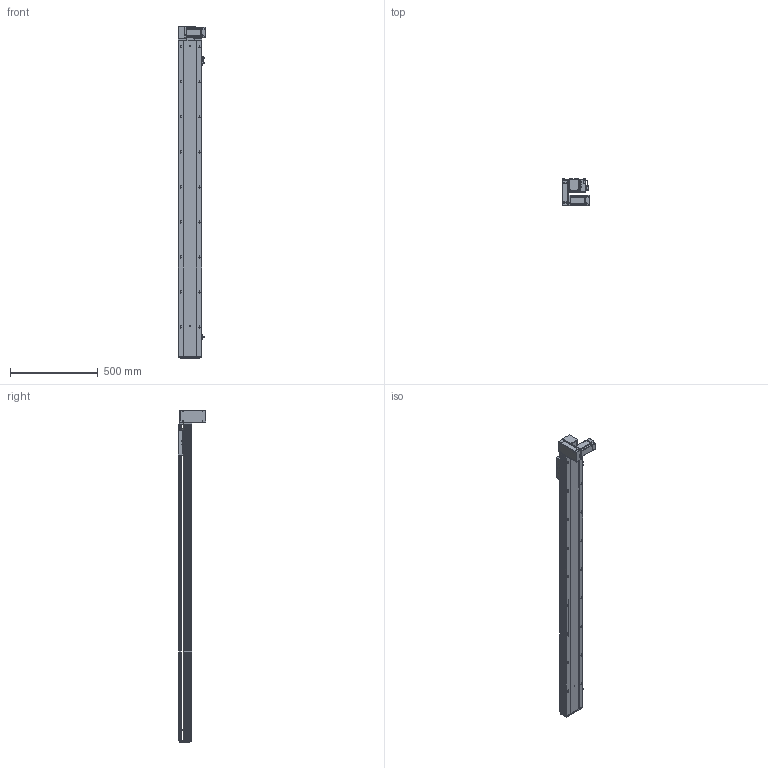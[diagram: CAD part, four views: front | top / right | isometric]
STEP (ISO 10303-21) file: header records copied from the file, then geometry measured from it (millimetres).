
FILE_DESCRIPTION (( 'STEP AP203' ), '1' );
FILE_NAME ('RY140-T-300-DL.SLDASM_1550.step', '2021-03-01T06:07:12', ( '盈信电脑' ), ( '东莞市道滘镇水果街19号' ), 'SwSTEP 2.0', 'SolidWorks 2012', '' );
FILE_SCHEMA (( 'CONFIG_CONTROL_DESIGN' ));
Length unit declared in the file: millimetre
Products named in the file (18): RY140綴裔啣; 覜茼ん672; RY120外置感应片(140共用）; RY120-T肮祭湍揤踡輸2; RY140肮祭謫臏賑輸; RY140-T-300-DL倰第奻裔啣_1550; RY140-T-300-DL倰第菁釱_1550; 15; RY120-T肮祭湍揤踡輸1; RY140-T翋肮祭謫盓傅釱; RY140-T萇儂假蚾啣; RY140-T翋肮謫裔啣; RY140-T-300-DL.SLDASM_1550; 滅袉蝶18-10; RY120-T蹟翐M4; RY140-T萇儂欶; RY120-T主同步轮轴承压盖; 侂狟400W侜督萇儂
Assembly tree (23 placements, depth 3):
  RY140-T-300-DL.SLDASM_1550
    RY140-T-300-DL倰第菁釱_1550
    RY140肮祭謫臏賑輸
    RY140-T-300-DL倰第奻裔啣_1550
    RY140綴裔啣
    覜茼ん672  x3
    RY120外置感应片(140共用）
    RY120-T肮祭湍揤踡輸2
    RY120-T肮祭湍揤踡輸1
    RY140-T翋肮祭謫盓傅釱
    RY140-T萇儂假蚾啣
    侂狟400W侜督萇儂
      15
    RY120-T主同步轮轴承压盖
    RY120-T蹟翐M4  x4
    RY140-T萇儂欶
    滅袉蝶18-10  x2
    RY140-T翋肮謫裔啣
Bounding box: 157 x 158.5 x 1896 mm (x, y, z)
Volume: 5312934.7 mm3; surface area: 2061705.8 mm2
Topology: 22 solids, 22 shells, 2786 faces, 7630 edges, 4870 vertices
Faces by surface type: plane 1385, cylinder 1043, cone 258, bspline 100
Entity records: 87964 total; most frequent: CARTESIAN_POINT 21329, ORIENTED_EDGE 13668, DIRECTION 13072, EDGE_CURVE 6834, VERTEX_POINT 4469, AXIS2_PLACEMENT_3D 4373, LINE 4326, VECTOR 4326
